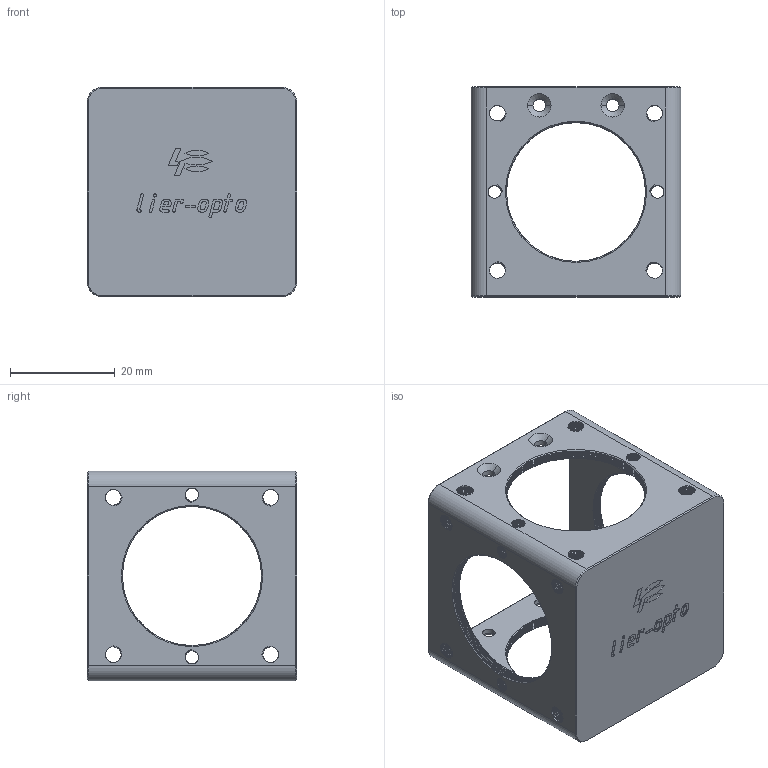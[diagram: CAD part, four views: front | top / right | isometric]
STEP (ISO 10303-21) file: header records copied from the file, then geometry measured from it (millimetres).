
FILE_DESCRIPTION (( 'STEP AP203' ), '1' );
FILE_NAME ('苤倰30 mm餵宒蕾源.STEP', '2024-09-07T07:55:33', ( '' ), ( '' ), 'SwSTEP 2.0', 'SolidWorks 2024', '' );
FILE_SCHEMA (( 'CONFIG_CONTROL_DESIGN' ));
Length unit declared in the file: millimetre
Products named in the file (1): 小型30 mm笼式立方
Bounding box: 40 x 40 x 40 mm (x, y, z)
Volume: 10295.5 mm3; surface area: 11639.8 mm2
Topology: 1 solids, 1 shells, 1196 faces, 3380 edges, 2197 vertices
Faces by surface type: cylinder 574, bspline 464, plane 130, cone 28
Entity records: 145605 total; most frequent: CARTESIAN_POINT 122031, ORIENTED_EDGE 6760, EDGE_CURVE 3380, DIRECTION 2678, VERTEX_POINT 2197, EDGE_LOOP 1271, FACE_OUTER_BOUND 1196, ADVANCED_FACE 1196
